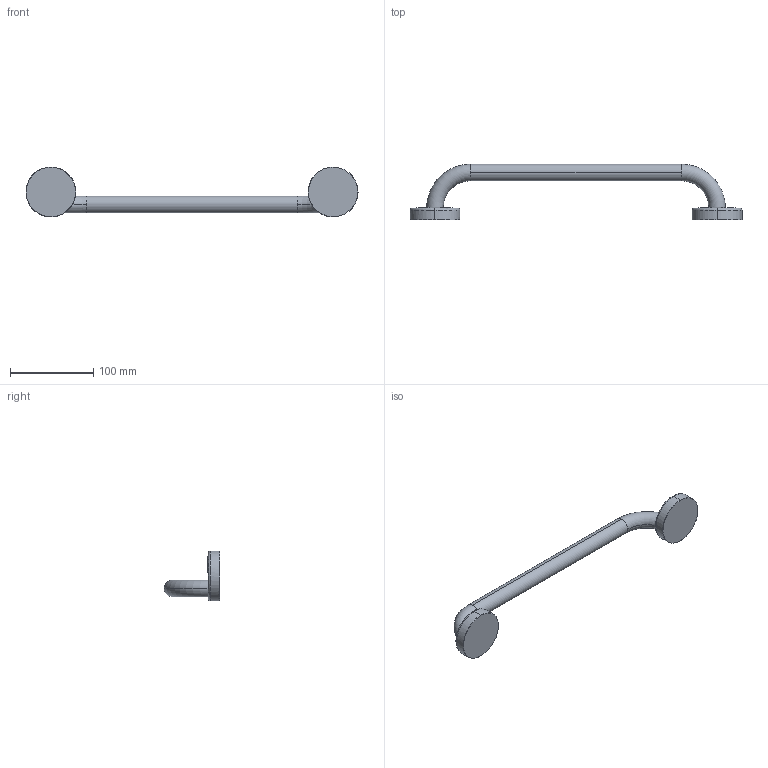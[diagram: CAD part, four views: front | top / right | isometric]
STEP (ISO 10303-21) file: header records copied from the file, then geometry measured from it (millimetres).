
FILE_DESCRIPTION(('THIS FILE CONTAINS SOME STEP INSTANCES'),'1');
FILE_NAME('lux_030.stp','2015-12-01T11:19:37',('UNDEFINED'),('UNDEFINED'),'T-FLEX CAD STEP converter','T-FLEX CAD','');
FILE_SCHEMA(('CONFIG_CONTROL_DESIGN'));
Length unit declared in the file: metre
Products named in the file (1): 3D 鐨飹懤艜_21
Bounding box: 400 x 67 x 60 mm (x, y, z)
Volume: 201970.4 mm3; surface area: 40036.5 mm2
Topology: 1 solids, 1 shells, 72 faces, 186 edges, 120 vertices
Faces by surface type: cone 20, bspline 20, plane 14, cylinder 10, torus 8
Entity records: 6516 total; most frequent: CARTESIAN_POINT 5041, ORIENTED_EDGE 372, DIRECTION 202, EDGE_CURVE 186, VERTEX_POINT 120, B_SPLINE_CURVE_WITH_KNOTS 84, AXIS2_PLACEMENT_3D 78, EDGE_LOOP 76
